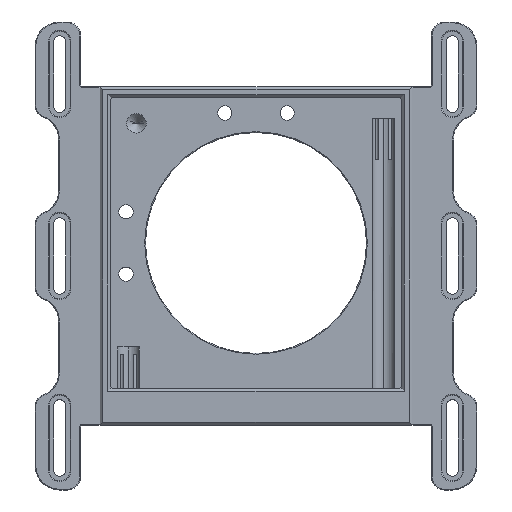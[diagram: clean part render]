
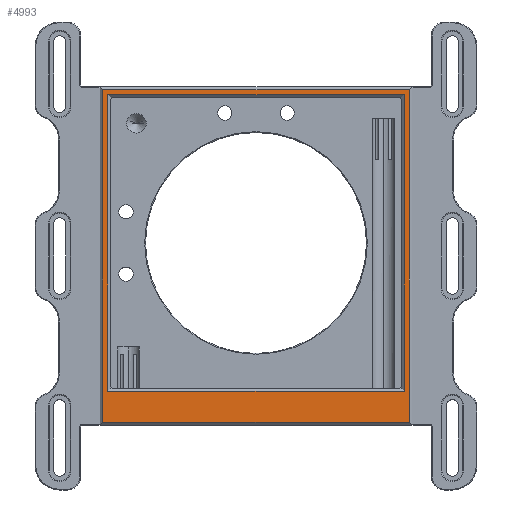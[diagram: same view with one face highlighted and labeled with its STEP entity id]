
A CAD part, top view. The second image highlights one B-rep face of the part: STEP entity #4993.
In plain terms, the highlighted planar face has unit normal (0, 0, 1).
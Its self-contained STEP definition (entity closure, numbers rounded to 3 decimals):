
#93 = LINE ( 'NONE', #1040, #393 ) ;
#121 = CARTESIAN_POINT ( 'NONE',  ( -57., -52., 15. ) ) ;
#230 = CARTESIAN_POINT ( 'NONE',  ( 57., -52., 15. ) ) ;
#393 = VECTOR ( 'NONE', #7285, 1000. ) ;
#449 = EDGE_CURVE ( 'NONE', #1910, #3283, #4737, .T. ) ;
#461 = CARTESIAN_POINT ( 'NONE',  ( -57., 61., 15. ) ) ;
#495 = ORIENTED_EDGE ( 'NONE', *, *, #2210, .T. ) ;
#507 = DIRECTION ( 'NONE',  ( 0., 1., 0. ) ) ;
#603 = CARTESIAN_POINT ( 'NONE',  ( 56., 62., 15. ) ) ;
#887 = EDGE_LOOP ( 'NONE', ( #495, #3710, #3527, #7563 ) ) ;
#1040 = CARTESIAN_POINT ( 'NONE',  ( 57., -51., 15. ) ) ;
#1583 = LINE ( 'NONE', #5556, #4614 ) ;
#1615 = CARTESIAN_POINT ( 'NONE',  ( 57., 62., 15. ) ) ;
#1910 = VERTEX_POINT ( 'NONE', #3236 ) ;
#1912 = VERTEX_POINT ( 'NONE', #2648 ) ;
#2210 = EDGE_CURVE ( 'NONE', #8683, #1910, #1583, .T. ) ;
#2287 = DIRECTION ( 'NONE',  ( 1., 0., 0. ) ) ;
#2362 = ORIENTED_EDGE ( 'NONE', *, *, #5359, .T. ) ;
#2648 = CARTESIAN_POINT ( 'NONE',  ( 59., 64., 15. ) ) ;
#2808 = VECTOR ( 'NONE', #6668, 1000. ) ;
#2847 = DIRECTION ( 'NONE',  ( 1., 0., 0. ) ) ;
#3036 = LINE ( 'NONE', #603, #6593 ) ;
#3197 = VERTEX_POINT ( 'NONE', #121 ) ;
#3236 = CARTESIAN_POINT ( 'NONE',  ( -59., -64., 15. ) ) ;
#3283 = VERTEX_POINT ( 'NONE', #3622 ) ;
#3527 = ORIENTED_EDGE ( 'NONE', *, *, #5406, .T. ) ;
#3584 = FACE_OUTER_BOUND ( 'NONE', #887, .T. ) ;
#3622 = CARTESIAN_POINT ( 'NONE',  ( 59., -64., 15. ) ) ;
#3710 = ORIENTED_EDGE ( 'NONE', *, *, #449, .T. ) ;
#3810 = EDGE_CURVE ( 'NONE', #5011, #4168, #93, .T. ) ;
#4168 = VERTEX_POINT ( 'NONE', #230 ) ;
#4329 = CARTESIAN_POINT ( 'NONE',  ( -60., 64., 15. ) ) ;
#4434 = ORIENTED_EDGE ( 'NONE', *, *, #3810, .T. ) ;
#4528 = LINE ( 'NONE', #7761, #5113 ) ;
#4601 = CARTESIAN_POINT ( 'NONE',  ( -56., -52., 15. ) ) ;
#4614 = VECTOR ( 'NONE', #8046, 1000. ) ;
#4737 = LINE ( 'NONE', #7974, #7445 ) ;
#4811 = CARTESIAN_POINT ( 'NONE',  ( -57., 62., 15. ) ) ;
#4993 = ADVANCED_FACE ( 'NONE', ( #8520, #3584 ), #6829, .T. ) ;
#5011 = VERTEX_POINT ( 'NONE', #1615 ) ;
#5113 = VECTOR ( 'NONE', #507, 1000. ) ;
#5132 = AXIS2_PLACEMENT_3D ( 'NONE', #6880, #10104, #2847 ) ;
#5280 = VECTOR ( 'NONE', #7715, 1000. ) ;
#5359 = EDGE_CURVE ( 'NONE', #3197, #8593, #6967, .T. ) ;
#5383 = DIRECTION ( 'NONE',  ( -1., 0., 0. ) ) ;
#5406 = EDGE_CURVE ( 'NONE', #3283, #1912, #4528, .T. ) ;
#5450 = VECTOR ( 'NONE', #5383, 1000. ) ;
#5556 = CARTESIAN_POINT ( 'NONE',  ( -59., -65., 15. ) ) ;
#6253 = ORIENTED_EDGE ( 'NONE', *, *, #6267, .T. ) ;
#6261 = ORIENTED_EDGE ( 'NONE', *, *, #7212, .T. ) ;
#6267 = EDGE_CURVE ( 'NONE', #4168, #3197, #10107, .T. ) ;
#6593 = VECTOR ( 'NONE', #2287, 1000. ) ;
#6668 = DIRECTION ( 'NONE',  ( -1., 0., 0. ) ) ;
#6829 = PLANE ( 'NONE',  #5132 ) ;
#6880 = CARTESIAN_POINT ( 'NONE',  ( 0., 0., 15. ) ) ;
#6967 = LINE ( 'NONE', #461, #5280 ) ;
#7212 = EDGE_CURVE ( 'NONE', #8593, #5011, #3036, .T. ) ;
#7285 = DIRECTION ( 'NONE',  ( 0., -1., 0. ) ) ;
#7445 = VECTOR ( 'NONE', #8861, 1000. ) ;
#7563 = ORIENTED_EDGE ( 'NONE', *, *, #9628, .T. ) ;
#7688 = EDGE_LOOP ( 'NONE', ( #2362, #6261, #4434, #6253 ) ) ;
#7715 = DIRECTION ( 'NONE',  ( 0., 1., 0. ) ) ;
#7761 = CARTESIAN_POINT ( 'NONE',  ( 59., 65., 15. ) ) ;
#7974 = CARTESIAN_POINT ( 'NONE',  ( 60., -64., 15. ) ) ;
#8046 = DIRECTION ( 'NONE',  ( 0., -1., 0. ) ) ;
#8243 = LINE ( 'NONE', #4329, #2808 ) ;
#8520 = FACE_BOUND ( 'NONE', #7688, .T. ) ;
#8593 = VERTEX_POINT ( 'NONE', #4811 ) ;
#8683 = VERTEX_POINT ( 'NONE', #10424 ) ;
#8861 = DIRECTION ( 'NONE',  ( 1., 0., 0. ) ) ;
#9628 = EDGE_CURVE ( 'NONE', #1912, #8683, #8243, .T. ) ;
#10104 = DIRECTION ( 'NONE',  ( 0., 0., 1. ) ) ;
#10107 = LINE ( 'NONE', #4601, #5450 ) ;
#10424 = CARTESIAN_POINT ( 'NONE',  ( -59., 64., 15. ) ) ;
